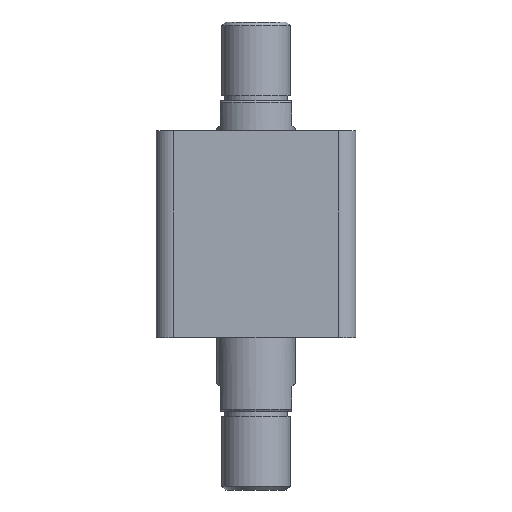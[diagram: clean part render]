
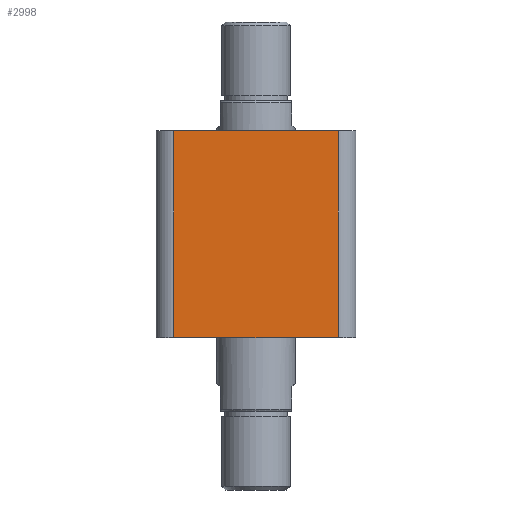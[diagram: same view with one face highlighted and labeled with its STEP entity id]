
A CAD part, front view. The second image highlights one B-rep face of the part: STEP entity #2998.
In plain terms, the highlighted planar face has unit normal (0, -1, 0).
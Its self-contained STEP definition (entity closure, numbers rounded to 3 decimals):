
#132 = CARTESIAN_POINT ( 'NONE',  ( -57., -57., 118. ) ) ;
#134 = PLANE ( 'NONE',  #1130 ) ;
#136 = DIRECTION ( 'NONE',  ( 0., 1., 0. ) ) ;
#137 = DIRECTION ( 'NONE',  ( 0., 0., 1. ) ) ;
#515 = CARTESIAN_POINT ( 'NONE',  ( 47., -57., 118. ) ) ;
#516 = DIRECTION ( 'NONE',  ( 0., 0., 1. ) ) ;
#517 = CARTESIAN_POINT ( 'NONE',  ( -57., -57., 118. ) ) ;
#518 = DIRECTION ( 'NONE',  ( 1., 0., 0. ) ) ;
#519 = CARTESIAN_POINT ( 'NONE',  ( -47., -57., 118. ) ) ;
#521 = DIRECTION ( 'NONE',  ( 0., 0., -1. ) ) ;
#531 = CARTESIAN_POINT ( 'NONE',  ( 47., -57., 118. ) ) ;
#592 = CARTESIAN_POINT ( 'NONE',  ( -47., -57., 118. ) ) ;
#602 = CARTESIAN_POINT ( 'NONE',  ( -47., -57., 0. ) ) ;
#1130 = AXIS2_PLACEMENT_3D ( 'NONE', #132, #136, #137 ) ;
#1643 = EDGE_LOOP ( 'NONE', ( #3288, #3287, #3286, #3285 ) ) ;
#1919 = VERTEX_POINT ( 'NONE', #2278 ) ;
#1920 = EDGE_CURVE ( 'NONE', #3340, #1919, #2556, .T. ) ;
#2274 = CARTESIAN_POINT ( 'NONE',  ( -57., -57., 0. ) ) ;
#2278 = CARTESIAN_POINT ( 'NONE',  ( 47., -57., 0. ) ) ;
#2283 = DIRECTION ( 'NONE',  ( 1., 0., 0. ) ) ;
#2556 = LINE ( 'NONE', #2274, #2570 ) ;
#2570 = VECTOR ( 'NONE', #2283, 1000. ) ;
#2642 = FACE_OUTER_BOUND ( 'NONE', #1643, .T. ) ;
#2799 = LINE ( 'NONE', #517, #2824 ) ;
#2821 = LINE ( 'NONE', #515, #2822 ) ;
#2822 = VECTOR ( 'NONE', #516, 1000. ) ;
#2823 = LINE ( 'NONE', #519, #2825 ) ;
#2824 = VECTOR ( 'NONE', #518, 1000. ) ;
#2825 = VECTOR ( 'NONE', #521, 1000. ) ;
#2998 = ADVANCED_FACE ( 'NONE', ( #2642 ), #134, .F. ) ;
#3115 = EDGE_CURVE ( 'NONE', #1919, #3156, #2821, .T. ) ;
#3116 = EDGE_CURVE ( 'NONE', #3330, #3156, #2799, .T. ) ;
#3117 = EDGE_CURVE ( 'NONE', #3330, #3340, #2823, .T. ) ;
#3156 = VERTEX_POINT ( 'NONE', #531 ) ;
#3285 = ORIENTED_EDGE ( 'NONE', *, *, #3117, .T. ) ;
#3286 = ORIENTED_EDGE ( 'NONE', *, *, #3116, .F. ) ;
#3287 = ORIENTED_EDGE ( 'NONE', *, *, #3115, .T. ) ;
#3288 = ORIENTED_EDGE ( 'NONE', *, *, #1920, .T. ) ;
#3330 = VERTEX_POINT ( 'NONE', #592 ) ;
#3340 = VERTEX_POINT ( 'NONE', #602 ) ;
